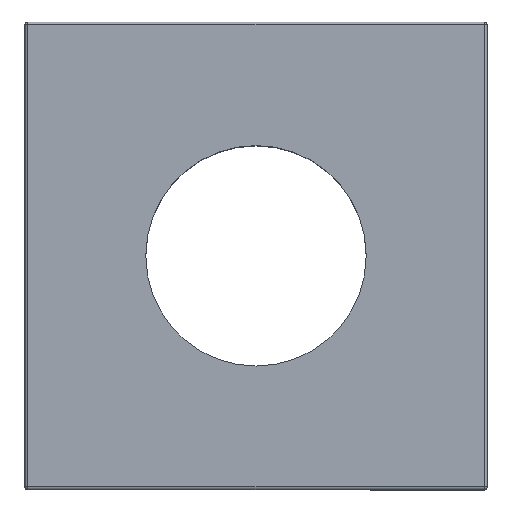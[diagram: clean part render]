
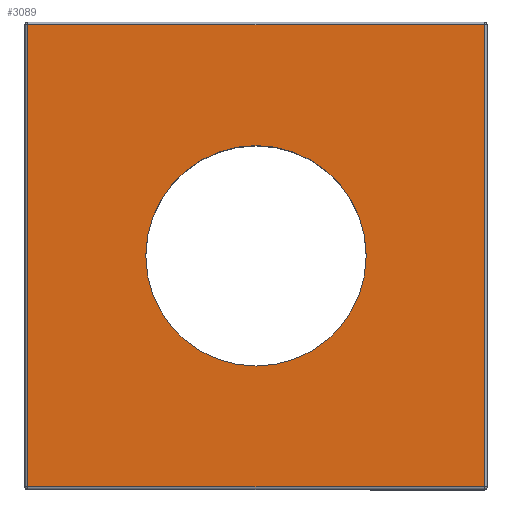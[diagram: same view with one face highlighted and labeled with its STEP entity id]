
A CAD part, top view. The second image highlights one B-rep face of the part: STEP entity #3089.
In plain terms, the highlighted planar face has unit normal (0, 0, 1).
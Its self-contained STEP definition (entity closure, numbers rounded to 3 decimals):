
#179 = CARTESIAN_POINT ( 'NONE',  ( 2273.242, -635.856, 0. ) ) ;
#200 = AXIS2_PLACEMENT_3D ( 'NONE', #3012, #345, #4613 ) ;
#236 = CARTESIAN_POINT ( 'NONE',  ( 2262.642, -635.856, 0. ) ) ;
#270 = CARTESIAN_POINT ( 'NONE',  ( 2283.142, -635.856, 0. ) ) ;
#291 = CARTESIAN_POINT ( 'NONE',  ( 2303.642, -635.856, 0. ) ) ;
#326 = DIRECTION ( 'NONE',  ( 1., 0., 0. ) ) ;
#345 = DIRECTION ( 'NONE',  ( 0., 0., 1. ) ) ;
#610 = ORIENTED_EDGE ( 'NONE', *, *, #3413, .F. ) ;
#841 = CIRCLE ( 'NONE', #2197, 9.9 ) ;
#859 = CARTESIAN_POINT ( 'NONE',  ( 2262.642, -656.606, 0. ) ) ;
#1154 = ORIENTED_EDGE ( 'NONE', *, *, #3768, .F. ) ;
#1245 = VECTOR ( 'NONE', #3802, 1000. ) ;
#1535 = EDGE_CURVE ( 'NONE', #2787, #4265, #5278, .T. ) ;
#1659 = VECTOR ( 'NONE', #6667, 1000. ) ;
#1757 = FACE_BOUND ( 'NONE', #6216, .T. ) ;
#1761 = CARTESIAN_POINT ( 'NONE',  ( 2303.642, -656.606, 0. ) ) ;
#1857 = CARTESIAN_POINT ( 'NONE',  ( 2293.042, -635.856, 0. ) ) ;
#1979 = VERTEX_POINT ( 'NONE', #6398 ) ;
#2010 = CARTESIAN_POINT ( 'NONE',  ( 2283.142, -635.856, 0. ) ) ;
#2197 = AXIS2_PLACEMENT_3D ( 'NONE', #270, #2450, #326 ) ;
#2450 = DIRECTION ( 'NONE',  ( 0., 0., 1. ) ) ;
#2684 = FACE_OUTER_BOUND ( 'NONE', #4261, .T. ) ;
#2758 = VERTEX_POINT ( 'NONE', #5481 ) ;
#2787 = VERTEX_POINT ( 'NONE', #1857 ) ;
#2915 = LINE ( 'NONE', #3427, #1245 ) ;
#3012 = CARTESIAN_POINT ( 'NONE',  ( 2283.142, -635.856, 0. ) ) ;
#3089 = ADVANCED_FACE ( 'NONE', ( #2684, #1757 ), #6255, .F. ) ;
#3339 = AXIS2_PLACEMENT_3D ( 'NONE', #2010, #6791, #4119 ) ;
#3413 = EDGE_CURVE ( 'NONE', #4265, #2787, #841, .T. ) ;
#3427 = CARTESIAN_POINT ( 'NONE',  ( 2283.142, -615.106, 0. ) ) ;
#3768 = EDGE_CURVE ( 'NONE', #1979, #2758, #2915, .T. ) ;
#3802 = DIRECTION ( 'NONE',  ( 1., 0., 0. ) ) ;
#3973 = EDGE_CURVE ( 'NONE', #5825, #1979, #5565, .T. ) ;
#4012 = ORIENTED_EDGE ( 'NONE', *, *, #6762, .F. ) ;
#4026 = DIRECTION ( 'NONE',  ( 0., -1., 0. ) ) ;
#4119 = DIRECTION ( 'NONE',  ( -1., 0., 0. ) ) ;
#4179 = VERTEX_POINT ( 'NONE', #1761 ) ;
#4261 = EDGE_LOOP ( 'NONE', ( #5468, #1154, #5402, #4012 ) ) ;
#4265 = VERTEX_POINT ( 'NONE', #179 ) ;
#4613 = DIRECTION ( 'NONE',  ( 1., 0., 0. ) ) ;
#4961 = VECTOR ( 'NONE', #4026, 1000. ) ;
#5278 = CIRCLE ( 'NONE', #200, 9.9 ) ;
#5373 = LINE ( 'NONE', #291, #4961 ) ;
#5402 = ORIENTED_EDGE ( 'NONE', *, *, #3973, .F. ) ;
#5448 = DIRECTION ( 'NONE',  ( -1., 0., 0. ) ) ;
#5468 = ORIENTED_EDGE ( 'NONE', *, *, #5999, .F. ) ;
#5481 = CARTESIAN_POINT ( 'NONE',  ( 2303.642, -615.106, 0. ) ) ;
#5549 = ORIENTED_EDGE ( 'NONE', *, *, #1535, .F. ) ;
#5565 = LINE ( 'NONE', #236, #1659 ) ;
#5825 = VERTEX_POINT ( 'NONE', #859 ) ;
#5980 = CARTESIAN_POINT ( 'NONE',  ( 2283.142, -656.606, 0. ) ) ;
#5999 = EDGE_CURVE ( 'NONE', #2758, #4179, #5373, .T. ) ;
#6216 = EDGE_LOOP ( 'NONE', ( #5549, #610 ) ) ;
#6255 = PLANE ( 'NONE',  #3339 ) ;
#6321 = LINE ( 'NONE', #5980, #6402 ) ;
#6398 = CARTESIAN_POINT ( 'NONE',  ( 2262.642, -615.106, 0. ) ) ;
#6402 = VECTOR ( 'NONE', #5448, 1000. ) ;
#6667 = DIRECTION ( 'NONE',  ( 0., 1., 0. ) ) ;
#6762 = EDGE_CURVE ( 'NONE', #4179, #5825, #6321, .T. ) ;
#6791 = DIRECTION ( 'NONE',  ( 0., 0., -1. ) ) ;
